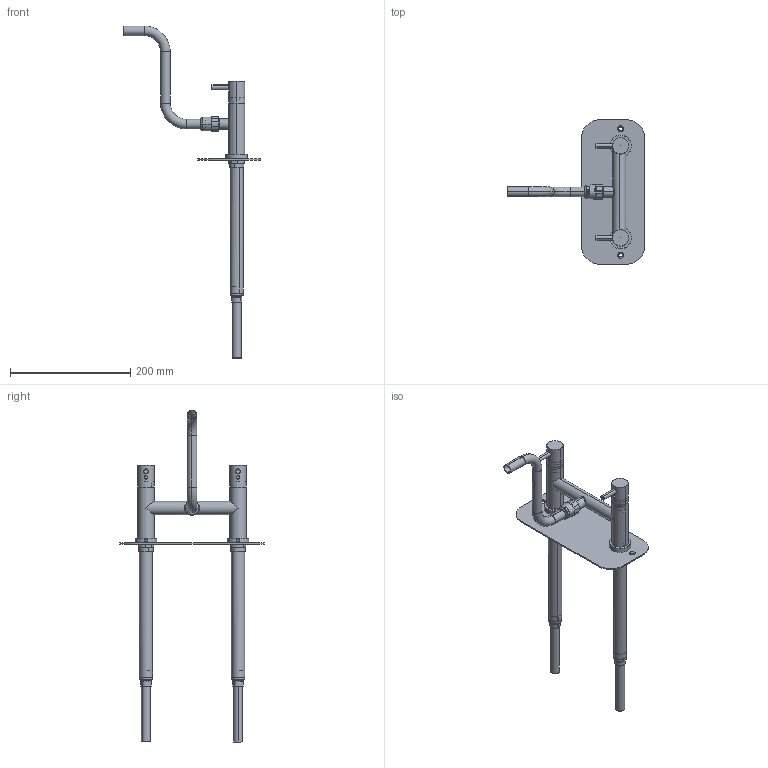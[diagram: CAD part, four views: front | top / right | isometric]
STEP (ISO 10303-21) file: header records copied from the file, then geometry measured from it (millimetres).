
FILE_DESCRIPTION (( 'STEP AP214' ), '1' );
FILE_NAME ('5010 EQI væghængt køkkenarmatur.STEP', '2023-01-05T10:12:50', ( '' ), ( '' ), 'SwSTEP 2.0', 'SolidWorks 2022', '' );
FILE_SCHEMA (( 'AUTOMOTIVE_DESIGN' ));
Length unit declared in the file: millimetre
Products named in the file (40): U 2010-18-1 Pibesamling 15mm tilslutning; U 2010-1 Loddefitting; U 2010-21 Håndtag; U 2010-9 Greb; U 5010-11 Køkkenarmatur; U 5010-6 S-tud; Pinolskrue M6x5; U 5010-7 Omløber mellem; U 2010-6 Overrør; U 5010-16 Støttebøsning; 5010 EQI væghængt køkkenarmatur; U 2010-7 Låsering; U 2010-5 Ventil; U 2010-23 Håndtag; U 5010-14 Omløbersamling; U 2010-2 Spindelhus; 17,1x1,6 O-ring; 6x2 O-ring shore90; U 2010-14 Indvendig loddesamling; Ø22x1x220 Kobberrør; U 2010-17 Loddestuds; U 5018-1 Bagplade; 1011899 - CU-p100 Neutral 15x19x1,5; 12x2 O-ring; 6x2 O-ring shore70; 20x2 O-ring; U 2010-24 Stift; U 2010-25 Ventilhus; U 2010-11 Spindelsamling; U 5050-12 Bagplade til væghængt bruser; U 2010-3-1 Spindel; U 5010-12 Messing bøsning; Ø15x1x100 Kobberrør; U 5050-26 Udløbstud; Pinolskrue M6x6; Ø8x1x200 Kobberrør; U 2010-19 Styrestift; U 5010-2 Mellemrør; U 5010-15 Samling af tud; 18x2 O-ring
Assembly tree (50 placements, depth 4):
  5010 EQI væghængt køkkenarmatur
    U 5010-11 Køkkenarmatur
      U 5010-2 Mellemrør
      U 5050-26 Udløbstud
      U 2010-6 Overrør  x2
    U 5050-12 Bagplade til væghængt bruser
      U 5018-1 Bagplade
      U 2010-7 Låsering  x2
    Pinolskrue M6x5  x2
    U 2010-23 Håndtag  x2
      U 2010-9 Greb
      U 2010-21 Håndtag
      Pinolskrue M6x6
    U 2010-18-1 Pibesamling 15mm tilslutning  x2
      U 2010-1 Loddefitting
      U 2010-25 Ventilhus
      20x2 O-ring
      Ø15x1x100 Kobberrør
      Ø22x1x220 Kobberrør
    U 2010-11 Spindelsamling  x2
      U 2010-19 Styrestift
      U 2010-2 Spindelhus
      U 2010-3-1 Spindel
      17,1x1,6 O-ring
      12x2 O-ring
      18x2 O-ring
      20x2 O-ring
    U 2010-14 Indvendig loddesamling  x2
      U 2010-5 Ventil
      U 2010-17 Loddestuds
      U 2010-24 Stift
      Ø8x1x200 Kobberrør
      6x2 O-ring shore90
      6x2 O-ring shore70
    U 5010-15 Samling af tud
      U 5010-14 Omløbersamling
        U 5010-7 Omløber mellem
        U 5010-12 Messing bøsning
        17,1x1,6 O-ring  x2
        1011899 - CU-p100 Neutral 15x19x1,5
      U 5010-16 Støttebøsning
    U 5010-6 S-tud
Bounding box: 228.45 x 240 x 551.75 mm (x, y, z)
Volume: 244957.9 mm3; surface area: 284466.5 mm2
Topology: 60 solids, 60 shells, 965 faces, 2181 edges, 1326 vertices
Faces by surface type: cylinder 440, plane 255, cone 168, torus 88, bspline 14
Entity records: 20633 total; most frequent: CARTESIAN_POINT 6496, DIRECTION 2908, ORIENTED_EDGE 2392, AXIS2_PLACEMENT_3D 1219, EDGE_CURVE 1196, VERTEX_POINT 745, EDGE_LOOP 645, CIRCLE 627
